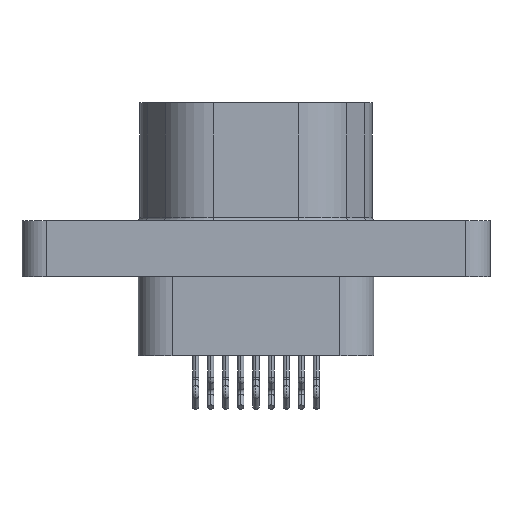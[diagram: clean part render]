
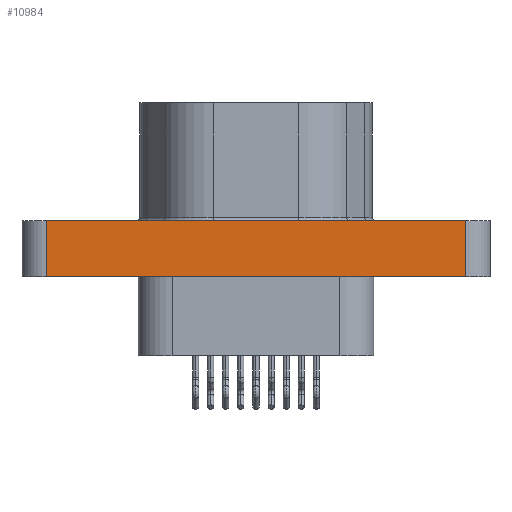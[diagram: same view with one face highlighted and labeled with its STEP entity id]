
A CAD part, front view. The second image highlights one B-rep face of the part: STEP entity #10984.
In plain terms, the highlighted planar face has unit normal (0, -1, 0).
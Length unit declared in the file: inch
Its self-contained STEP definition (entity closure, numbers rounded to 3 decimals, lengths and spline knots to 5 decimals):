
#718 = LINE ( 'NONE', #14423, #3424 ) ;
#913 = CARTESIAN_POINT ( 'NONE',  ( 0.3475, -0.15, -0.053 ) ) ;
#1264 = DIRECTION ( 'NONE',  ( -1., 0., 0. ) ) ;
#1457 = DIRECTION ( 'NONE',  ( 0., -1., 0. ) ) ;
#1483 = EDGE_LOOP ( 'NONE', ( #8946, #10496, #11564, #13969 ) ) ;
#1848 = LINE ( 'NONE', #4838, #8214 ) ;
#2240 = VERTEX_POINT ( 'NONE', #8863 ) ;
#2745 = VERTEX_POINT ( 'NONE', #10683 ) ;
#3424 = VECTOR ( 'NONE', #11150, 39.37008 ) ;
#4031 = CARTESIAN_POINT ( 'NONE',  ( -0.3475, -0.15, -0.053 ) ) ;
#4240 = VERTEX_POINT ( 'NONE', #11304 ) ;
#4838 = CARTESIAN_POINT ( 'NONE',  ( 0.3475, -0.15, 0.04 ) ) ;
#7360 = LINE ( 'NONE', #913, #13686 ) ;
#7468 = DIRECTION ( 'NONE',  ( 0., 0., 1. ) ) ;
#7739 = LINE ( 'NONE', #12962, #13333 ) ;
#8214 = VECTOR ( 'NONE', #13184, 39.37008 ) ;
#8863 = CARTESIAN_POINT ( 'NONE',  ( 0.3475, -0.15, 0.04 ) ) ;
#8946 = ORIENTED_EDGE ( 'NONE', *, *, #13839, .F. ) ;
#10496 = ORIENTED_EDGE ( 'NONE', *, *, #14134, .F. ) ;
#10585 = PLANE ( 'NONE',  #13500 ) ;
#10683 = CARTESIAN_POINT ( 'NONE',  ( -0.3475, -0.15, 0.04 ) ) ;
#10984 = ADVANCED_FACE ( 'NONE', ( #13887 ), #10585, .T. ) ;
#11150 = DIRECTION ( 'NONE',  ( 0., 0., -1. ) ) ;
#11254 = EDGE_CURVE ( 'NONE', #2240, #2745, #1848, .T. ) ;
#11304 = CARTESIAN_POINT ( 'NONE',  ( 0.3475, -0.15, -0.053 ) ) ;
#11564 = ORIENTED_EDGE ( 'NONE', *, *, #11254, .T. ) ;
#11710 = VERTEX_POINT ( 'NONE', #4031 ) ;
#12256 = EDGE_CURVE ( 'NONE', #2745, #11710, #718, .T. ) ;
#12946 = DIRECTION ( 'NONE',  ( 0., 0., -1. ) ) ;
#12962 = CARTESIAN_POINT ( 'NONE',  ( 0.3475, -0.15, 0.04 ) ) ;
#13184 = DIRECTION ( 'NONE',  ( -1., 0., 0. ) ) ;
#13333 = VECTOR ( 'NONE', #12946, 39.37008 ) ;
#13500 = AXIS2_PLACEMENT_3D ( 'NONE', #14518, #1457, #7468 ) ;
#13686 = VECTOR ( 'NONE', #1264, 39.37008 ) ;
#13839 = EDGE_CURVE ( 'NONE', #4240, #11710, #7360, .T. ) ;
#13887 = FACE_OUTER_BOUND ( 'NONE', #1483, .T. ) ;
#13969 = ORIENTED_EDGE ( 'NONE', *, *, #12256, .T. ) ;
#14134 = EDGE_CURVE ( 'NONE', #2240, #4240, #7739, .T. ) ;
#14423 = CARTESIAN_POINT ( 'NONE',  ( -0.3475, -0.15, 0.04 ) ) ;
#14518 = CARTESIAN_POINT ( 'NONE',  ( 0.3475, -0.15, 0.04 ) ) ;
